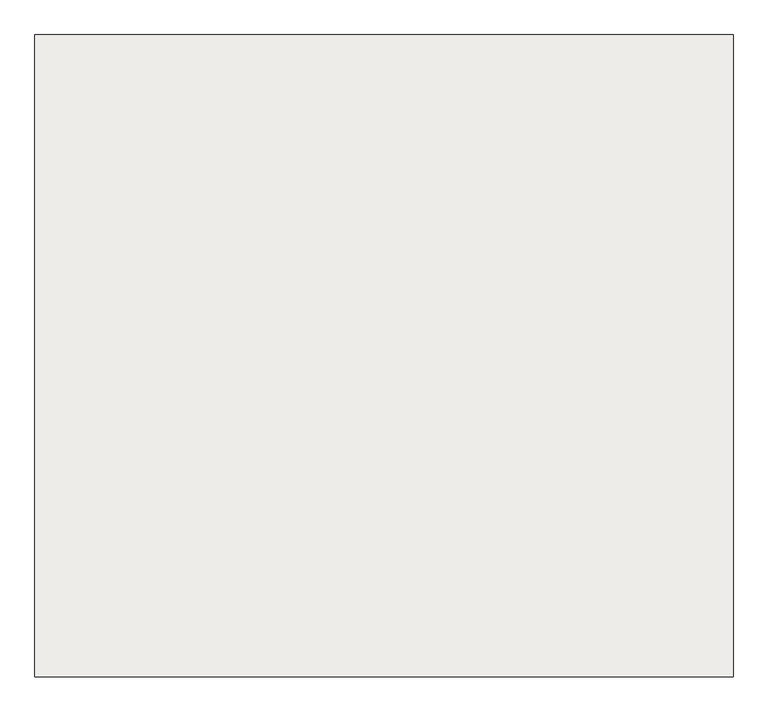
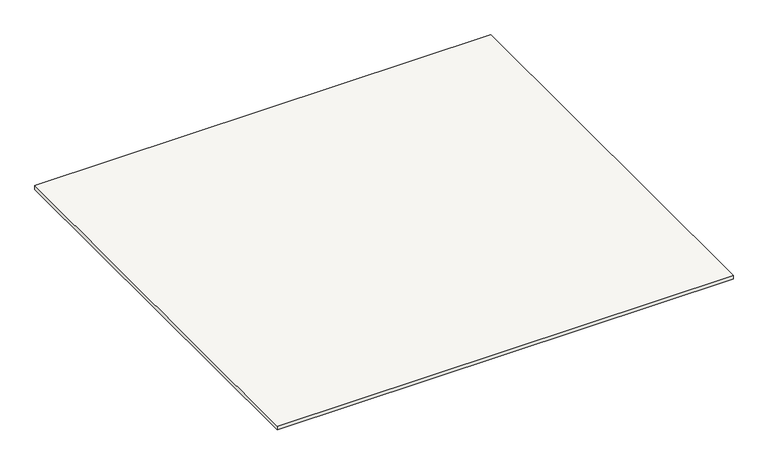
"""IFC4 building model written with IfcOpenShell, lengths in millimetres: slab geometry, Non-Monolitic_Landing."""

from ifc_helpers import new_model, si_unit, frame, origin, place, context, project, spatial, polyline, outline, extrude, source, transform, mapped, element, save


def slab_849558ca(model_context):
    return source(origin(), model_context, "Body", "SweptSolid", [
        extrude(outline(polyline([(6269.4763518, 6882.5459795), (6269.4763518, 7922.5459947), (7399.4763518, 7922.5459891), (7399.4763518, 6882.5459795), (6269.4763518, 6882.5459795)])), frame((0.0, 0.0, 22500.0), z_axis=(0.0, 0.0, 1.0), x_axis=(1.0, 0.0, 0.0)), (0.0, 0.0, 1.0), 10.0),
    ])


if __name__ == "__main__":
    model = new_model("IFC4")
    model_context = context("Model", 3, world=origin())
    ifc_project = project(units=[si_unit("LENGTHUNIT", "METRE", prefix="MILLI")], contexts=[model_context])
    site = spatial("IfcSite", under=ifc_project)
    building = spatial("IfcBuilding", under=site)
    placement = place(None, origin())
    slab_shape = slab_849558ca(model_context)
    element("IfcSlab", 1, ObjectType="Non-Monolitic_Landing", at=placement, inside=building, context=model_context, shape_type="MappedRepresentation", body=[
        mapped(slab_shape, transform((0.0, 0.0, 0.0), x_axis=(1.0, 0.0, 0.0), y_axis=(0.0, 1.0, 0.0), z_axis=(0.0, 0.0, 1.0))),
    ])
    save(model, "model.ifc")
